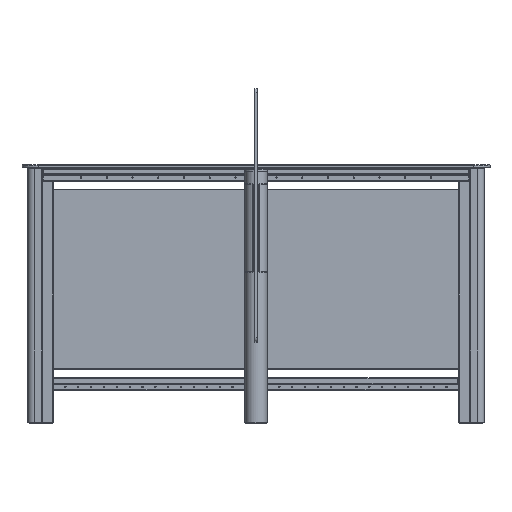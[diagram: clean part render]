
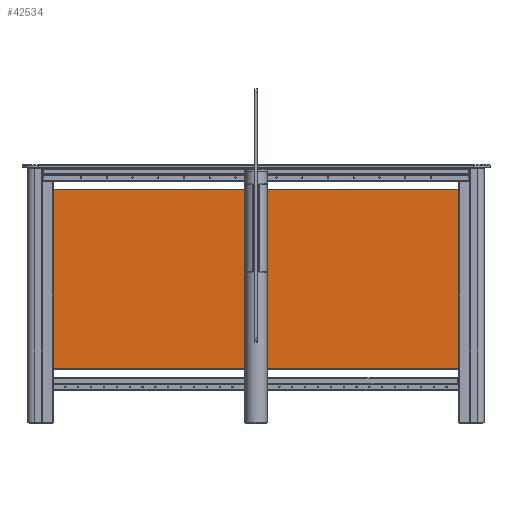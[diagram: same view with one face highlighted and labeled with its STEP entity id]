
A CAD part, left-side view. The second image highlights one B-rep face of the part: STEP entity #42534.
In plain terms, the highlighted planar face has unit normal (-1, 0, 0) as drawn and (0, 0, -1) by its records, which use the part's own axes.
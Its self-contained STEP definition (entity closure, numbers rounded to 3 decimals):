
#6003=LINE('',#73077,#10400);
#6004=LINE('',#73082,#10401);
#6005=LINE('',#73086,#10402);
#6006=LINE('',#73090,#10403);
#10400=VECTOR('',#56925,1000.);
#10401=VECTOR('',#56928,1000.);
#10402=VECTOR('',#56931,1000.);
#10403=VECTOR('',#56934,1000.);
#21186=ORIENTED_EDGE('',*,*,#27601,.T.);
#21187=ORIENTED_EDGE('',*,*,#27602,.T.);
#21188=ORIENTED_EDGE('',*,*,#27603,.T.);
#21189=ORIENTED_EDGE('',*,*,#27604,.T.);
#21190=ORIENTED_EDGE('',*,*,#27605,.T.);
#21191=ORIENTED_EDGE('',*,*,#27606,.T.);
#21192=ORIENTED_EDGE('',*,*,#27607,.T.);
#21193=ORIENTED_EDGE('',*,*,#27608,.T.);
#21194=ORIENTED_EDGE('',*,*,#27609,.T.);
#21195=ORIENTED_EDGE('',*,*,#27610,.T.);
#21196=ORIENTED_EDGE('',*,*,#27611,.T.);
#21197=ORIENTED_EDGE('',*,*,#27612,.T.);
#21198=ORIENTED_EDGE('',*,*,#27613,.T.);
#21199=ORIENTED_EDGE('',*,*,#27614,.T.);
#27601=EDGE_CURVE('',#31603,#31604,#6003,.T.);
#27602=EDGE_CURVE('',#31604,#31605,#32876,.T.);
#27603=EDGE_CURVE('',#31605,#31606,#6004,.T.);
#27604=EDGE_CURVE('',#31606,#31607,#32877,.T.);
#27605=EDGE_CURVE('',#31607,#31608,#6005,.T.);
#27606=EDGE_CURVE('',#31608,#31609,#32878,.T.);
#27607=EDGE_CURVE('',#31609,#31610,#6006,.T.);
#27608=EDGE_CURVE('',#31610,#31603,#32879,.T.);
#27609=EDGE_CURVE('',#31611,#31611,#32880,.F.);
#27610=EDGE_CURVE('',#31612,#31612,#32881,.F.);
#27611=EDGE_CURVE('',#31613,#31613,#32882,.F.);
#27612=EDGE_CURVE('',#31614,#31614,#32883,.F.);
#27613=EDGE_CURVE('',#31615,#31615,#32884,.F.);
#27614=EDGE_CURVE('',#31616,#31616,#32885,.F.);
#31603=VERTEX_POINT('',#73078);
#31604=VERTEX_POINT('',#73079);
#31605=VERTEX_POINT('',#73081);
#31606=VERTEX_POINT('',#73083);
#31607=VERTEX_POINT('',#73085);
#31608=VERTEX_POINT('',#73087);
#31609=VERTEX_POINT('',#73089);
#31610=VERTEX_POINT('',#73091);
#31611=VERTEX_POINT('',#73094);
#31612=VERTEX_POINT('',#73096);
#31613=VERTEX_POINT('',#73098);
#31614=VERTEX_POINT('',#73100);
#31615=VERTEX_POINT('',#73102);
#31616=VERTEX_POINT('',#73104);
#32876=CIRCLE('',#46510,14.);
#32877=CIRCLE('',#46511,14.);
#32878=CIRCLE('',#46512,14.);
#32879=CIRCLE('',#46513,14.);
#32880=CIRCLE('',#46514,7.);
#32881=CIRCLE('',#46515,7.);
#32882=CIRCLE('',#46516,7.);
#32883=CIRCLE('',#46517,7.);
#32884=CIRCLE('',#46518,7.);
#32885=CIRCLE('',#46519,7.);
#35651=EDGE_LOOP('',(#21186,#21187,#21188,#21189,#21190,#21191,#21192,#21193));
#35652=EDGE_LOOP('',(#21194));
#35653=EDGE_LOOP('',(#21195));
#35654=EDGE_LOOP('',(#21196));
#35655=EDGE_LOOP('',(#21197));
#35656=EDGE_LOOP('',(#21198));
#35657=EDGE_LOOP('',(#21199));
#38614=FACE_BOUND('',#35651,.T.);
#38615=FACE_BOUND('',#35652,.T.);
#38616=FACE_BOUND('',#35653,.T.);
#38617=FACE_BOUND('',#35654,.T.);
#38618=FACE_BOUND('',#35655,.T.);
#38619=FACE_BOUND('',#35656,.T.);
#38620=FACE_BOUND('',#35657,.T.);
#40350=PLANE('',#46509);
#42534=ADVANCED_FACE('',(#38614,#38615,#38616,#38617,#38618,#38619,#38620),
#40350,.T.);
#46509=AXIS2_PLACEMENT_3D('',#73076,#56923,#56924);
#46510=AXIS2_PLACEMENT_3D('',#73080,#56926,#56927);
#46511=AXIS2_PLACEMENT_3D('',#73084,#56929,#56930);
#46512=AXIS2_PLACEMENT_3D('',#73088,#56932,#56933);
#46513=AXIS2_PLACEMENT_3D('',#73092,#56935,#56936);
#46514=AXIS2_PLACEMENT_3D('',#73093,#56937,#56938);
#46515=AXIS2_PLACEMENT_3D('',#73095,#56939,#56940);
#46516=AXIS2_PLACEMENT_3D('',#73097,#56941,#56942);
#46517=AXIS2_PLACEMENT_3D('',#73099,#56943,#56944);
#46518=AXIS2_PLACEMENT_3D('',#73101,#56945,#56946);
#46519=AXIS2_PLACEMENT_3D('',#73103,#56947,#56948);
#56923=DIRECTION('',(0.,0.,-1.));
#56924=DIRECTION('',(-1.,0.,0.));
#56925=DIRECTION('',(1.,0.,0.));
#56926=DIRECTION('',(0.,0.,-1.));
#56927=DIRECTION('',(-1.,0.,0.));
#56928=DIRECTION('',(0.,-1.,0.));
#56929=DIRECTION('',(0.,0.,-1.));
#56930=DIRECTION('',(-1.,0.,0.));
#56931=DIRECTION('',(-1.,0.,0.));
#56932=DIRECTION('',(0.,0.,-1.));
#56933=DIRECTION('',(-1.,0.,0.));
#56934=DIRECTION('',(0.,1.,0.));
#56935=DIRECTION('',(0.,0.,-1.));
#56936=DIRECTION('',(-1.,0.,0.));
#56937=DIRECTION('',(0.,0.,-1.));
#56938=DIRECTION('',(-1.,0.,0.));
#56939=DIRECTION('',(0.,0.,-1.));
#56940=DIRECTION('',(-1.,0.,0.));
#56941=DIRECTION('',(0.,0.,-1.));
#56942=DIRECTION('',(-1.,0.,0.));
#56943=DIRECTION('',(0.,0.,-1.));
#56944=DIRECTION('',(-1.,0.,0.));
#56945=DIRECTION('',(0.,0.,-1.));
#56946=DIRECTION('',(-1.,0.,0.));
#56947=DIRECTION('',(0.,0.,-1.));
#56948=DIRECTION('',(-1.,0.,0.));
#73076=CARTESIAN_POINT('',(850.,350.,-4.));
#73077=CARTESIAN_POINT('',(850.,349.,-4.));
#73078=CARTESIAN_POINT('',(-835.,349.,-4.));
#73079=CARTESIAN_POINT('',(835.,349.,-4.));
#73080=CARTESIAN_POINT('',(835.,335.,-4.));
#73081=CARTESIAN_POINT('',(849.,335.,-4.));
#73082=CARTESIAN_POINT('',(849.,350.,-4.));
#73083=CARTESIAN_POINT('',(849.,-335.,-4.));
#73084=CARTESIAN_POINT('',(835.,-335.,-4.));
#73085=CARTESIAN_POINT('',(835.,-349.,-4.));
#73086=CARTESIAN_POINT('',(850.,-349.,-4.));
#73087=CARTESIAN_POINT('',(-835.,-349.,-4.));
#73088=CARTESIAN_POINT('',(-835.,-335.,-4.));
#73089=CARTESIAN_POINT('',(-849.,-335.,-4.));
#73090=CARTESIAN_POINT('',(-849.,350.,-4.));
#73091=CARTESIAN_POINT('',(-849.,335.,-4.));
#73092=CARTESIAN_POINT('',(-835.,335.,-4.));
#73093=CARTESIAN_POINT('',(825.,-250.,-4.));
#73094=CARTESIAN_POINT('',(818.,-250.,-4.));
#73095=CARTESIAN_POINT('',(825.,250.,-4.));
#73096=CARTESIAN_POINT('',(818.,250.,-4.));
#73097=CARTESIAN_POINT('',(-825.,250.,-4.));
#73098=CARTESIAN_POINT('',(-832.,250.,-4.));
#73099=CARTESIAN_POINT('',(-825.,-250.,-4.));
#73100=CARTESIAN_POINT('',(-832.,-250.,-4.));
#73101=CARTESIAN_POINT('',(0.,200.,-4.));
#73102=CARTESIAN_POINT('',(-7.,200.,-4.));
#73103=CARTESIAN_POINT('',(0.,-200.,-4.));
#73104=CARTESIAN_POINT('',(-7.,-200.,-4.));
